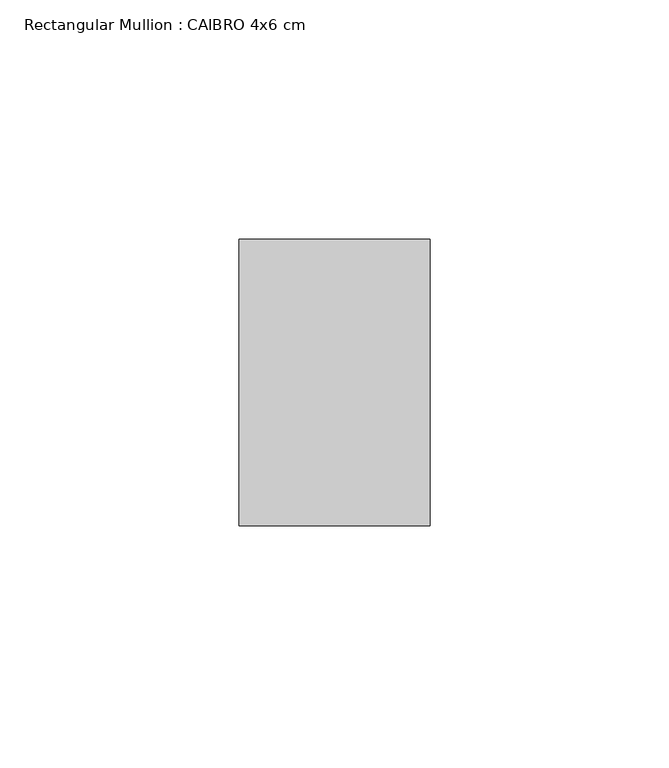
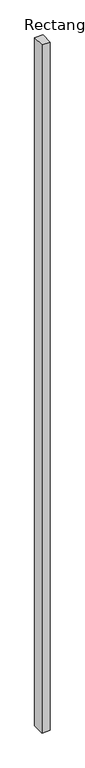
"""IFC4 building model written with IfcOpenShell, lengths in millimetres: member geometry, Rectangular Mullion : CAIBRO 4x6 cm."""

from ifc_helpers import new_model, si_unit, frame, origin, place, context, project, spatial, polyline, outline, extrude, source, transform, mapped, element, save


def rectangular_mullion_caibro_4x6_cm_94adb570(model_context):
    return source(origin(), model_context, "Body", "SweptSolid", [
        extrude(outline(polyline([(0.0, 60.0), (0.0, 0.0), (-40.0, 0.0), (-40.0, 60.0), (0.0, 60.0)])), frame((0.0, 0.0, -3503.7644131), z_axis=(0.0, 0.0, 1.0), x_axis=(1.0, 0.0, 0.0)), (0.0, 0.0, 1.0), 3503.7644131),
    ])


if __name__ == "__main__":
    model = new_model("IFC4")
    model_context = context("Model", 3, world=origin())
    ifc_project = project(units=[si_unit("LENGTHUNIT", "METRE", prefix="MILLI")], contexts=[model_context])
    site = spatial("IfcSite", under=ifc_project)
    building = spatial("IfcBuilding", under=site)
    placement = place(None, origin())
    rectangular_mullion_caibro_4x6_cm_shape = rectangular_mullion_caibro_4x6_cm_94adb570(model_context)
    element("IfcMember", 1, ObjectType="Rectangular Mullion : CAIBRO 4x6 cm", at=placement, inside=building, context=model_context, shape_type="MappedRepresentation", body=[
        mapped(rectangular_mullion_caibro_4x6_cm_shape, transform((0.0, 0.0, 0.0), x_axis=(1.0, 0.0, 0.0), y_axis=(0.0, 1.0, 0.0), z_axis=(0.0, 0.0, 1.0))),
    ])
    save(model, "model.ifc")
